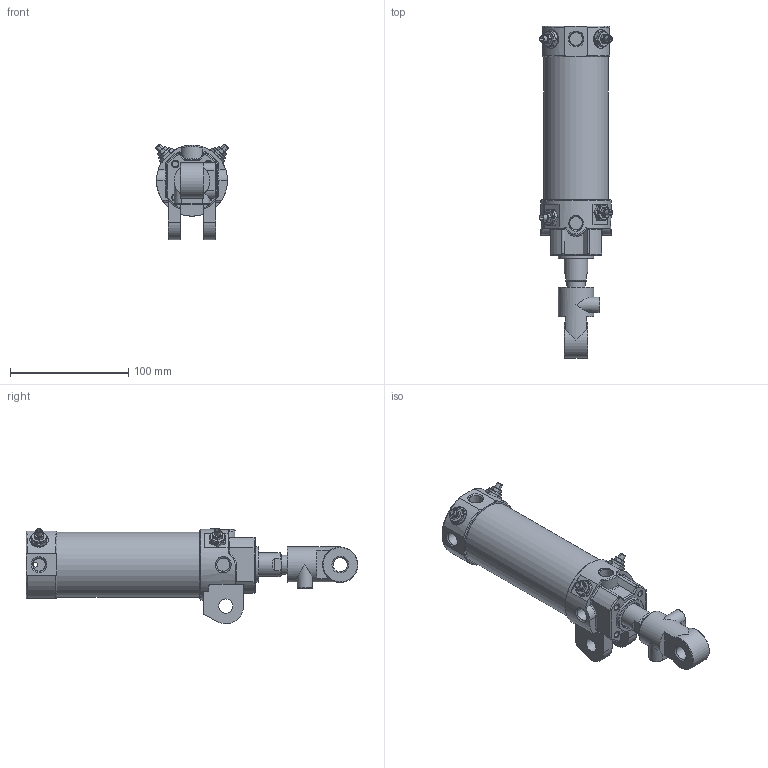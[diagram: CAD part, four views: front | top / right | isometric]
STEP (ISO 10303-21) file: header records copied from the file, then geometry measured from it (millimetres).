
FILE_DESCRIPTION((''),'2;1');
FILE_NAME('I:\3D電子目錄\氣缸\DCK\DCK\DCK-1B-50x75-I.stp','2008-02-26T14:29:45',('Administrator'),(''),'Autodesk Inventor 11','Autodesk Inventor 11','');
FILE_SCHEMA(('AUTOMOTIVE_DESIGN { 1 0 10303 214 1 1 1 1 }'));
Length unit declared in the file: millimetre
Products named in the file (6): DCK-1B-50-I; 緩衝針; 緩衝針-1; 緩衝針-201; 緩衝針-3
Assembly tree (8 placements, depth 3):
  DCK-1B-50-I
    DCK-1B-50-I
    緩衝針  x4
      緩衝針-1
      緩衝針-201
      緩衝針-3
Bounding box: 61.76 x 281 x 80.87 mm (x, y, z)
Volume: 269548.7 mm3; surface area: 109633.4 mm2
Topology: 16 solids, 16 shells, 617 faces, 1375 edges, 859 vertices
Faces by surface type: plane 227, cylinder 180, cone 141, torus 35, bspline 34
Full cylindrical faces by diameter (mm): 2 x2, 3 x4, 3.8 x2, 4 x6, 4.6 x4, 5 x8, 5.1 x4, 5.2 x12, 5.5 x4, 7.25 x1, 7.9 x4, 8 x2, 10.3 x1, 11.3 x1, 12 x5, 12.8 x4, 16 x3, 20 x1, 21 x1, 22 x2, 23 x1, 24.7 x1, 26 x1, 27 x1, 28 x1, 29 x1, 30 x3, 33 x1, 49.5 x1, 52 x2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
Entity records: 12811 total; most frequent: CARTESIAN_POINT 5086, DIRECTION 1580, ORIENTED_EDGE 1388, EDGE_CURVE 694, AXIS2_PLACEMENT_3D 690, EDGE_LOOP 570, VERTEX_POINT 506, FACE_OUTER_BOUND 368
